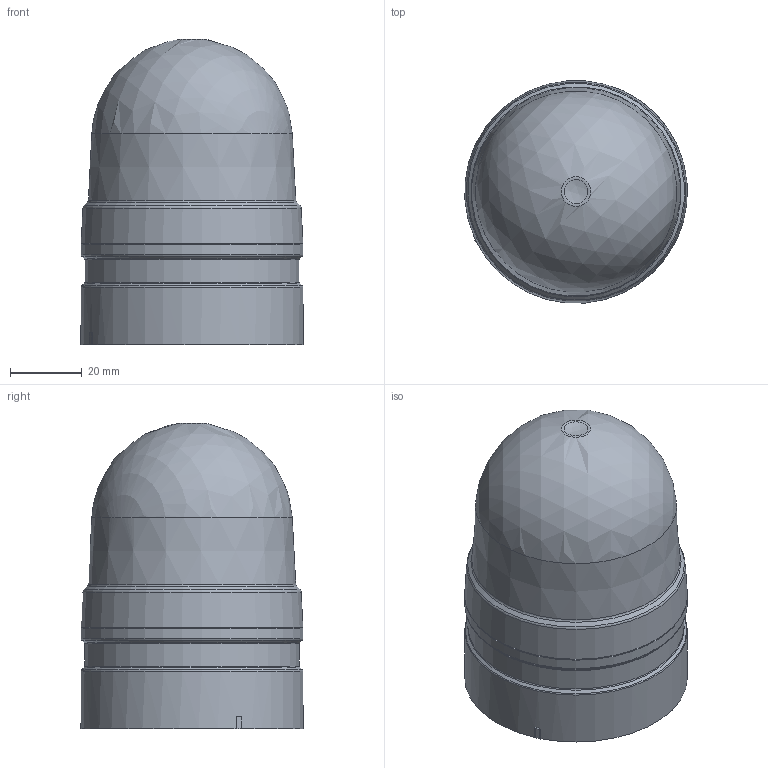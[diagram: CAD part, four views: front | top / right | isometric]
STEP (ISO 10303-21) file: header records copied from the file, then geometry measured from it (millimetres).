
FILE_DESCRIPTION(/* description */ ('Customer-3D YE'),/* implementation_level */ '2;1');
FILE_NAME(/* name */ 'C:\CEWorkDir\0050569C0EFC1EDD82FF0C9A191740C5\in\100000011318_prt_000.step',/* time_stamp */ '2022-07-25T11:04:26+02:00',/* author */ ('JENNERT'),/* organization */ ('WERMA Signaltechnik GmbH+Co.KG'),/* preprocessor_version */ 'ST-DEVELOPER v17',/* originating_system */ 'Autodesk Inventor 2018',/* authorisation */ 'public');
FILE_SCHEMA (('AUTOMOTIVE_DESIGN { 1 0 10303 214 3 1 1 }'));
Length unit declared in the file: millimetre
Products named in the file (1): 100000011318_prt_000_1
Bounding box: 61.86 x 61.83 x 84.97 mm (x, y, z)
Volume: 170500.8 mm3; surface area: 22364.6 mm2
Topology: 1 solids, 1 shells, 133 faces, 371 edges, 253 vertices
Faces by surface type: plane 61, bspline 40, cylinder 14, cone 9, torus 7, sphere 2
Full cylindrical faces by diameter (mm): 60 x1, 62 x2
Entity records: 5158 total; most frequent: CARTESIAN_POINT 1697, ORIENTED_EDGE 742, DIRECTION 595, EDGE_CURVE 371, VERTEX_POINT 253, AXIS2_PLACEMENT_3D 212, LINE 171, VECTOR 171
